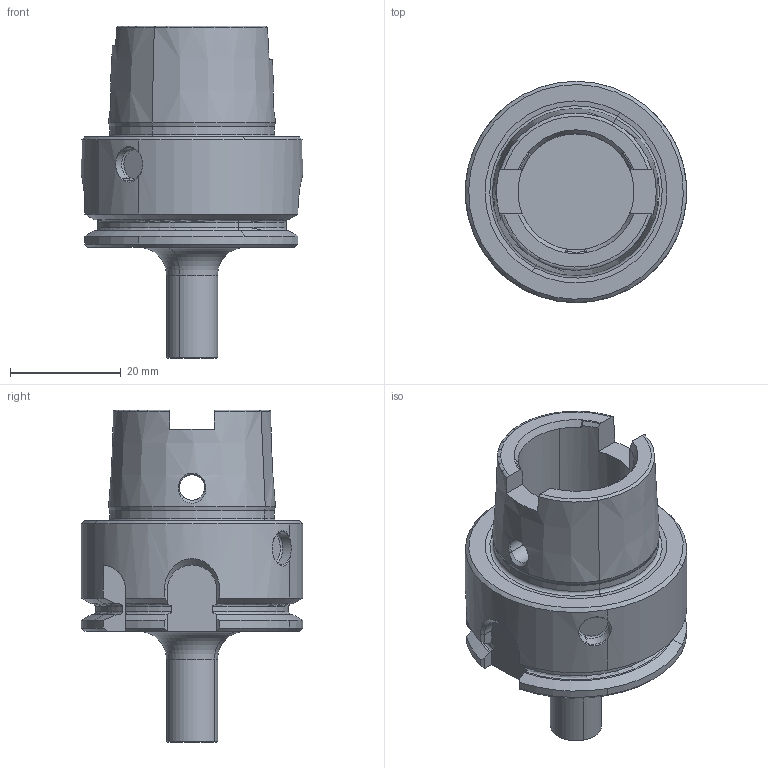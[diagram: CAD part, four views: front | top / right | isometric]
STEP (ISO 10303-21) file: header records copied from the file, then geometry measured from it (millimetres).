
FILE_DESCRIPTION(('CATIA V5 STEP','CAx-IF Rec.Pracs.--- Model Styling and Organization---1.2---2011-12-15'),'2;1');
FILE_NAME('N:\data\isr\design\special1\users\NATALY_B\Tal\NPA\3315507\MM S-A-H040-HSK A40-T06-L.stp','2017-03-08T07:58:52+00:00',('none'),('none'),'CATIA Version 5 Release 21 SP 5 (IN-10)','CATIA V5 STEP AP214','none');
FILE_SCHEMA(('AUTOMOTIVE_DESIGN { 1 0 10303 214 1 1 1 1 }'));
Length unit declared in the file: millimetre
Products named in the file (1): MM S-A-H040-HSK A40-T06
Bounding box: 40 x 40 x 60 mm (x, y, z)
Volume: 28554.6 mm3; surface area: 9403.1 mm2
Topology: 1 solids, 1 shells, 136 faces, 360 edges, 228 vertices
Faces by surface type: cone 41, plane 39, cylinder 27, torus 25, bspline 4
Entity records: 4457 total; most frequent: CARTESIAN_POINT 1555, ORIENTED_EDGE 720, DIRECTION 391, EDGE_CURVE 360, VERTEX_POINT 228, AXIS2_PLACEMENT_3D 209, CIRCLE 144, EDGE_LOOP 142
